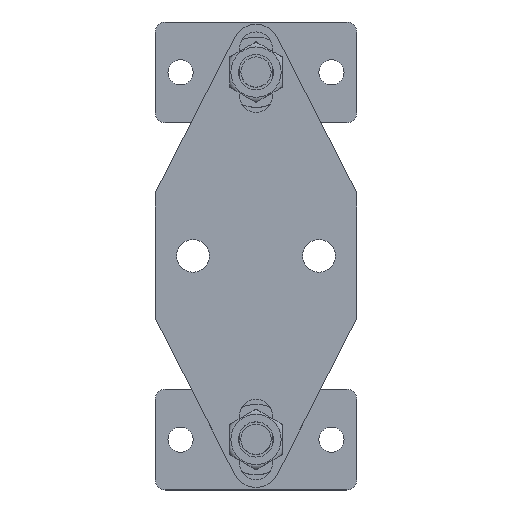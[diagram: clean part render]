
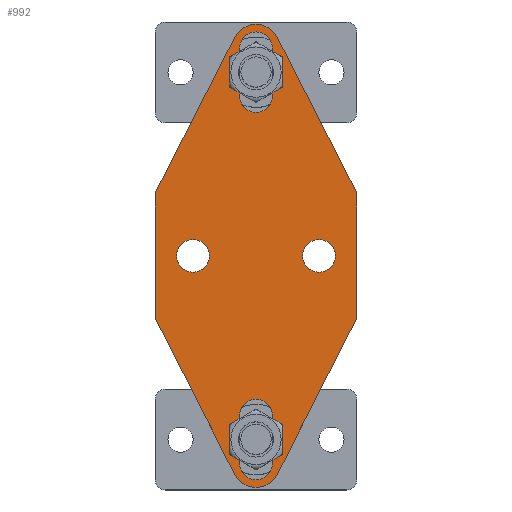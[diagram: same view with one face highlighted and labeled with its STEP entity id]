
A CAD part, top view. The second image highlights one B-rep face of the part: STEP entity #992.
In plain terms, the highlighted planar face has unit normal (0, 0, 1).
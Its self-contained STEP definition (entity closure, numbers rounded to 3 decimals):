
#104=FACE_BOUND('',#270,.T.);
#105=FACE_BOUND('',#271,.T.);
#106=FACE_BOUND('',#272,.T.);
#107=FACE_BOUND('',#273,.T.);
#128=CIRCLE('',#1041,3.25);
#130=CIRCLE('',#1045,3.25);
#132=CIRCLE('',#1049,3.25);
#134=CIRCLE('',#1053,3.25);
#135=CIRCLE('',#1055,3.25);
#137=CIRCLE('',#1058,3.25);
#140=CIRCLE('',#1063,4.75);
#142=CIRCLE('',#1069,4.75);
#204=FACE_OUTER_BOUND('',#269,.T.);
#269=EDGE_LOOP('',(#766,#767,#768,#769,#770,#771,#772,#773));
#270=EDGE_LOOP('',(#774,#775,#776,#777));
#271=EDGE_LOOP('',(#778,#779,#780,#781));
#272=EDGE_LOOP('',(#782));
#273=EDGE_LOOP('',(#783));
#334=LINE('',#1451,#398);
#339=LINE('',#1464,#403);
#342=LINE('',#1475,#406);
#347=LINE('',#1488,#411);
#350=LINE('',#1509,#414);
#354=LINE('',#1521,#418);
#357=LINE('',#1527,#421);
#360=LINE('',#1533,#424);
#364=LINE('',#1545,#428);
#367=LINE('',#1549,#431);
#398=VECTOR('',#1157,9.5);
#403=VECTOR('',#1170,9.5);
#406=VECTOR('',#1181,9.5);
#411=VECTOR('',#1194,9.5);
#414=VECTOR('',#1217,34.668);
#418=VECTOR('',#1229,34.668);
#421=VECTOR('',#1234,25.);
#424=VECTOR('',#1239,34.668);
#428=VECTOR('',#1251,34.668);
#431=VECTOR('',#1256,25.);
#462=VERTEX_POINT('',#1448);
#463=VERTEX_POINT('',#1450);
#465=VERTEX_POINT('',#1456);
#467=VERTEX_POINT('',#1462);
#470=VERTEX_POINT('',#1472);
#471=VERTEX_POINT('',#1474);
#473=VERTEX_POINT('',#1480);
#475=VERTEX_POINT('',#1486);
#476=VERTEX_POINT('',#1493);
#478=VERTEX_POINT('',#1498);
#482=VERTEX_POINT('',#1506);
#483=VERTEX_POINT('',#1508);
#485=VERTEX_POINT('',#1514);
#487=VERTEX_POINT('',#1520);
#489=VERTEX_POINT('',#1526);
#491=VERTEX_POINT('',#1532);
#493=VERTEX_POINT('',#1538);
#495=VERTEX_POINT('',#1544);
#554=EDGE_CURVE('',#463,#462,#334,.T.);
#558=EDGE_CURVE('',#462,#465,#128,.T.);
#561=EDGE_CURVE('',#465,#467,#339,.T.);
#563=EDGE_CURVE('',#467,#463,#130,.T.);
#566=EDGE_CURVE('',#471,#470,#342,.T.);
#570=EDGE_CURVE('',#470,#473,#132,.T.);
#573=EDGE_CURVE('',#473,#475,#347,.T.);
#575=EDGE_CURVE('',#475,#471,#134,.T.);
#576=EDGE_CURVE('',#476,#476,#135,.T.);
#578=EDGE_CURVE('',#478,#478,#137,.T.);
#582=EDGE_CURVE('',#483,#482,#350,.T.);
#585=EDGE_CURVE('',#485,#483,#140,.T.);
#588=EDGE_CURVE('',#487,#485,#354,.T.);
#591=EDGE_CURVE('',#489,#487,#357,.T.);
#594=EDGE_CURVE('',#491,#489,#360,.T.);
#597=EDGE_CURVE('',#493,#491,#142,.T.);
#600=EDGE_CURVE('',#495,#493,#364,.T.);
#603=EDGE_CURVE('',#482,#495,#367,.T.);
#766=ORIENTED_EDGE('',*,*,#603,.T.);
#767=ORIENTED_EDGE('',*,*,#600,.T.);
#768=ORIENTED_EDGE('',*,*,#597,.T.);
#769=ORIENTED_EDGE('',*,*,#594,.T.);
#770=ORIENTED_EDGE('',*,*,#591,.T.);
#771=ORIENTED_EDGE('',*,*,#588,.T.);
#772=ORIENTED_EDGE('',*,*,#585,.T.);
#773=ORIENTED_EDGE('',*,*,#582,.T.);
#774=ORIENTED_EDGE('',*,*,#554,.T.);
#775=ORIENTED_EDGE('',*,*,#558,.T.);
#776=ORIENTED_EDGE('',*,*,#561,.T.);
#777=ORIENTED_EDGE('',*,*,#563,.T.);
#778=ORIENTED_EDGE('',*,*,#566,.T.);
#779=ORIENTED_EDGE('',*,*,#570,.T.);
#780=ORIENTED_EDGE('',*,*,#573,.T.);
#781=ORIENTED_EDGE('',*,*,#575,.T.);
#782=ORIENTED_EDGE('',*,*,#576,.T.);
#783=ORIENTED_EDGE('',*,*,#578,.T.);
#947=PLANE('',#1073);
#992=ADVANCED_FACE('',(#204,#104,#105,#106,#107),#947,.T.);
#1041=AXIS2_PLACEMENT_3D('',#1458,#1164,#1165);
#1045=AXIS2_PLACEMENT_3D('',#1467,#1175,#1176);
#1049=AXIS2_PLACEMENT_3D('',#1482,#1188,#1189);
#1053=AXIS2_PLACEMENT_3D('',#1491,#1199,#1200);
#1055=AXIS2_PLACEMENT_3D('',#1494,#1203,#1204);
#1058=AXIS2_PLACEMENT_3D('',#1499,#1209,#1210);
#1063=AXIS2_PLACEMENT_3D('',#1515,#1223,#1224);
#1069=AXIS2_PLACEMENT_3D('',#1539,#1245,#1246);
#1073=AXIS2_PLACEMENT_3D('',#1551,#1259,#1260);
#1157=DIRECTION('',(0.,-1.,0.));
#1164=DIRECTION('center_axis',(0.,0.,-1.));
#1165=DIRECTION('ref_axis',(-1.,0.,0.));
#1170=DIRECTION('',(0.,1.,0.));
#1175=DIRECTION('center_axis',(0.,0.,-1.));
#1176=DIRECTION('ref_axis',(1.,0.,0.));
#1181=DIRECTION('',(0.,1.,0.));
#1188=DIRECTION('center_axis',(0.,0.,-1.));
#1189=DIRECTION('ref_axis',(1.,0.,0.));
#1194=DIRECTION('',(0.,-1.,0.));
#1199=DIRECTION('center_axis',(0.,0.,-1.));
#1200=DIRECTION('ref_axis',(-1.,0.,0.));
#1203=DIRECTION('center_axis',(0.,0.,-1.));
#1204=DIRECTION('ref_axis',(-1.,0.,0.));
#1209=DIRECTION('center_axis',(0.,0.,-1.));
#1210=DIRECTION('ref_axis',(-1.,0.,0.));
#1217=DIRECTION('',(-0.454,-0.891,0.));
#1223=DIRECTION('center_axis',(0.,0.,1.));
#1224=DIRECTION('ref_axis',(-0.894,-0.449,0.));
#1229=DIRECTION('',(-0.454,0.891,0.));
#1234=DIRECTION('',(0.,1.,0.));
#1239=DIRECTION('',(0.454,0.891,0.));
#1245=DIRECTION('center_axis',(0.,0.,1.));
#1246=DIRECTION('ref_axis',(0.894,0.449,0.));
#1251=DIRECTION('',(0.454,-0.891,0.));
#1256=DIRECTION('',(0.,-1.,0.));
#1259=DIRECTION('center_axis',(0.,0.,1.));
#1260=DIRECTION('ref_axis',(1.,0.,0.));
#1448=CARTESIAN_POINT('',(23.349,4.867,2.));
#1450=CARTESIAN_POINT('',(23.349,14.367,2.));
#1451=CARTESIAN_POINT('',(23.349,25.492,2.));
#1456=CARTESIAN_POINT('',(16.849,4.867,2.));
#1458=CARTESIAN_POINT('Origin',(20.099,4.867,2.));
#1462=CARTESIAN_POINT('',(16.849,14.367,2.));
#1464=CARTESIAN_POINT('',(16.849,30.242,2.));
#1467=CARTESIAN_POINT('Origin',(20.099,14.367,2.));
#1472=CARTESIAN_POINT('',(16.849,87.367,2.));
#1474=CARTESIAN_POINT('',(16.849,77.867,2.));
#1475=CARTESIAN_POINT('',(16.849,66.742,2.));
#1480=CARTESIAN_POINT('',(23.349,87.367,2.));
#1482=CARTESIAN_POINT('Origin',(20.099,87.367,2.));
#1486=CARTESIAN_POINT('',(23.349,77.867,2.));
#1488=CARTESIAN_POINT('',(23.349,61.992,2.));
#1491=CARTESIAN_POINT('Origin',(20.099,77.867,2.));
#1493=CARTESIAN_POINT('',(10.849,46.117,2.));
#1494=CARTESIAN_POINT('Origin',(7.599,46.117,2.));
#1498=CARTESIAN_POINT('',(35.849,46.117,2.));
#1499=CARTESIAN_POINT('Origin',(32.599,46.117,2.));
#1506=CARTESIAN_POINT('',(0.099,58.617,2.));
#1508=CARTESIAN_POINT('',(15.854,89.499,2.));
#1509=CARTESIAN_POINT('',(0.099,58.617,2.));
#1514=CARTESIAN_POINT('',(24.344,89.499,2.));
#1515=CARTESIAN_POINT('Origin',(20.099,87.367,2.));
#1520=CARTESIAN_POINT('',(40.099,58.617,2.));
#1521=CARTESIAN_POINT('',(24.344,89.499,2.));
#1526=CARTESIAN_POINT('',(40.099,33.617,2.));
#1527=CARTESIAN_POINT('',(40.099,58.617,2.));
#1532=CARTESIAN_POINT('',(24.344,2.736,2.));
#1533=CARTESIAN_POINT('',(40.099,33.617,2.));
#1538=CARTESIAN_POINT('',(15.854,2.736,2.));
#1539=CARTESIAN_POINT('Origin',(20.099,4.867,2.));
#1544=CARTESIAN_POINT('',(0.099,33.617,2.));
#1545=CARTESIAN_POINT('',(15.854,2.736,2.));
#1549=CARTESIAN_POINT('',(0.099,33.617,2.));
#1551=CARTESIAN_POINT('Origin',(20.099,46.117,2.));
